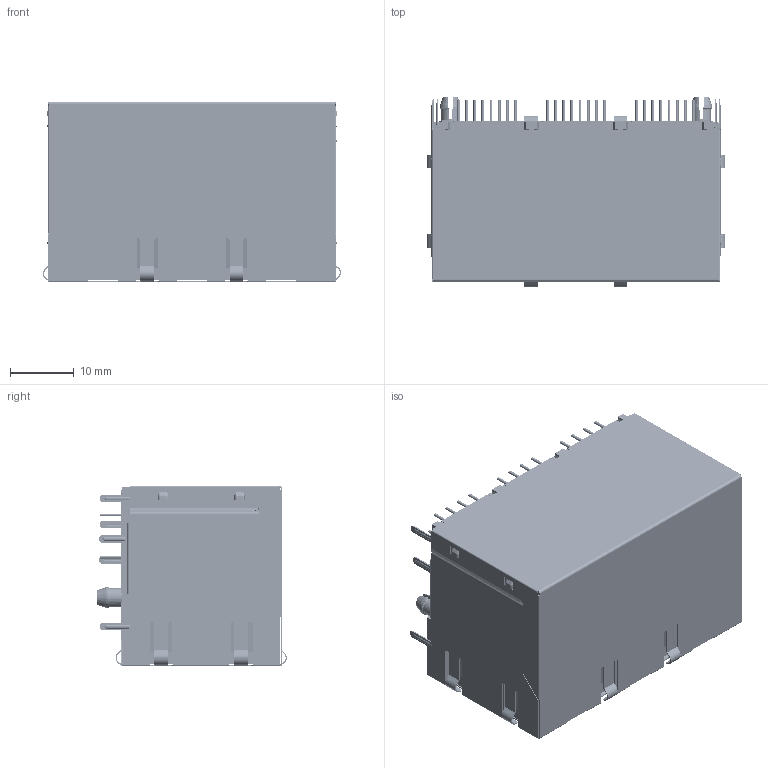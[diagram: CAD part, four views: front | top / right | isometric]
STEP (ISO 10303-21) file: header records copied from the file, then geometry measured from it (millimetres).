
FILE_DESCRIPTION((''),'2;1');
FILE_NAME('DGKYD59212388HWA1DY1A062','2022-10-18T16:28:16',('Administrator'),(''),'CREO PARAMETRIC BY PTC INC, 2019010','CREO PARAMETRIC BY PTC INC, 2019010','');
FILE_SCHEMA(('CONFIG_CONTROL_DESIGN'));
Products named in the file (1): DGKYD59212388HWA1DY1A062
Bounding box: 46.79 x 29.8 x 28.35 mm (x, y, z)
Volume: 13845.8 mm3; surface area: 40002.1 mm2
Topology: 1 solids, 9 shells, 5231 faces, 16241 edges, 10596 vertices
Faces by surface type: plane 3277, cylinder 1577, torus 263, sphere 64, bspline 46, cone 4
Entity records: 192872 total; most frequent: CARTESIAN_POINT 48013, ORIENTED_EDGE 32326, DIRECTION 28520, EDGE_CURVE 16187, VECTOR 11000, LINE 11000, VERTEX_POINT 10596, AXIS2_PLACEMENT_3D 8760
